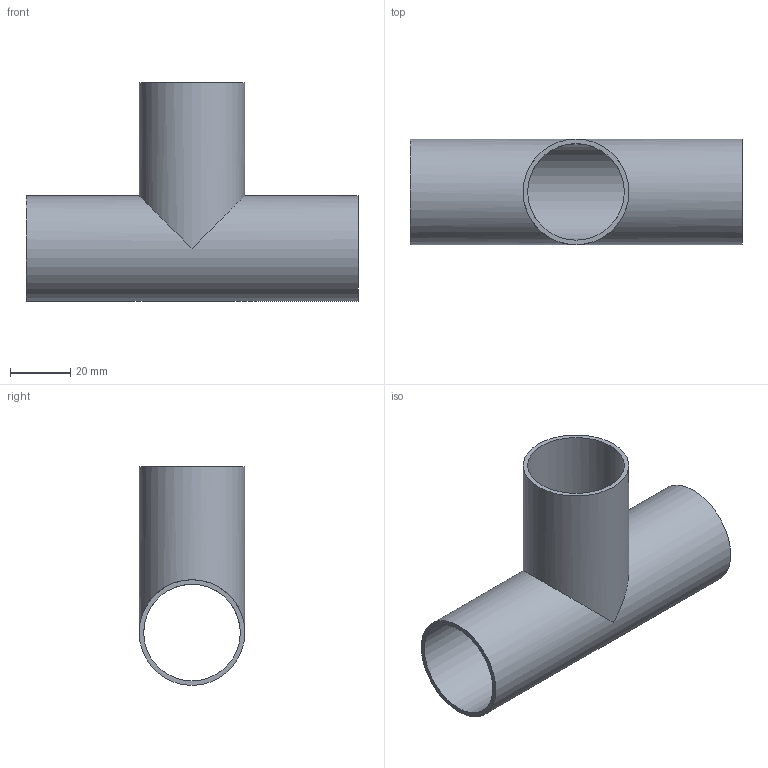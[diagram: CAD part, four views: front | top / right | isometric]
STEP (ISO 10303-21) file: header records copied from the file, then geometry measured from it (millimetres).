
FILE_DESCRIPTION(('FreeCAD Model'),'2;1');
FILE_NAME( '/home/martin/Documents/proyect/accesorios/stp/te_long_DN-32.step', '2018-01-07T08:11:27',('Author'),(''), 'Open CASCADE STEP processor 6.8','FreeCAD','Unknown');
FILE_SCHEMA(('AUTOMOTIVE_DESIGN_CC2 { 1 2 10303 214 -1 1 5 4 }'));
Length unit declared in the file: millimetre
Products named in the file (1): te_long_DN-32
Bounding box: 110 x 35 x 72.5 mm (x, y, z)
Volume: 22678.7 mm3; surface area: 30705.9 mm2
Topology: 1 solids, 1 shells, 7 faces, 16 edges, 12 vertices
Faces by surface type: cylinder 4, plane 3
Full cylindrical faces by diameter (mm): 32 x2, 35 x2
Entity records: 531 total; most frequent: CARTESIAN_POINT 172, DIRECTION 64, ORIENTED_EDGE 32, PCURVE 32, DEFINITIONAL_REPRESENTATION 32, AXIS2_PLACEMENT_3D 20, LINE 18, VECTOR 18
